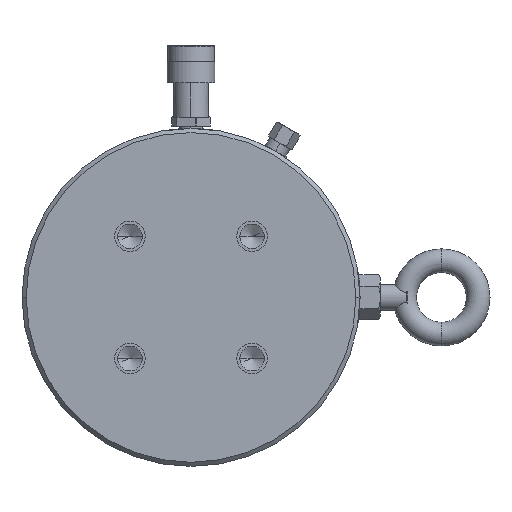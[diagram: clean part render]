
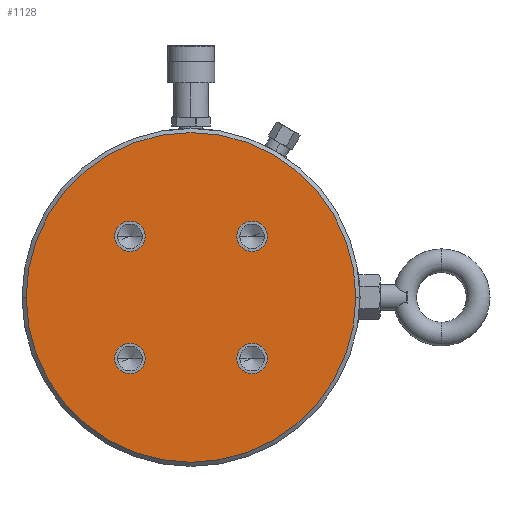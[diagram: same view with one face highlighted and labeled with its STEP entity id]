
A CAD part, front view. The second image highlights one B-rep face of the part: STEP entity #1128.
In plain terms, the highlighted planar face has unit normal (0, -1, 0).
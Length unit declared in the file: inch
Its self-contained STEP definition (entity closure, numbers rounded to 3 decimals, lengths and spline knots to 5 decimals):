
#1=CARTESIAN_POINT('',(-1.76777,0.,-1.76777));
#2=DIRECTION('',(0.,-1.,0.));
#3=DIRECTION('',(1.,0.,0.));
#4=AXIS2_PLACEMENT_3D('',#1,#2,#3);
#6=CARTESIAN_POINT('',(-1.76777,0.,-1.76777));
#7=DIRECTION('',(0.,-1.,0.));
#8=DIRECTION('',(-1.,0.,0.));
#9=AXIS2_PLACEMENT_3D('',#6,#7,#8);
#11=CARTESIAN_POINT('',(-1.76777,0.,1.76777));
#12=DIRECTION('',(0.,-1.,0.));
#13=DIRECTION('',(1.,0.,0.));
#14=AXIS2_PLACEMENT_3D('',#11,#12,#13);
#16=CARTESIAN_POINT('',(-1.76777,0.,1.76777));
#17=DIRECTION('',(0.,-1.,0.));
#18=DIRECTION('',(-1.,0.,0.));
#19=AXIS2_PLACEMENT_3D('',#16,#17,#18);
#21=CARTESIAN_POINT('',(1.76777,0.,1.76777));
#22=DIRECTION('',(0.,-1.,0.));
#23=DIRECTION('',(1.,0.,0.));
#24=AXIS2_PLACEMENT_3D('',#21,#22,#23);
#26=CARTESIAN_POINT('',(1.76777,0.,1.76777));
#27=DIRECTION('',(0.,-1.,0.));
#28=DIRECTION('',(-1.,0.,0.));
#29=AXIS2_PLACEMENT_3D('',#26,#27,#28);
#31=CARTESIAN_POINT('',(1.76777,0.,-1.76777));
#32=DIRECTION('',(0.,-1.,0.));
#33=DIRECTION('',(1.,0.,0.));
#34=AXIS2_PLACEMENT_3D('',#31,#32,#33);
#36=CARTESIAN_POINT('',(1.76777,0.,-1.76777));
#37=DIRECTION('',(0.,-1.,0.));
#38=DIRECTION('',(-1.,0.,0.));
#39=AXIS2_PLACEMENT_3D('',#36,#37,#38);
#243=CARTESIAN_POINT('',(0.,0.,0.));
#244=DIRECTION('',(0.,1.,0.));
#245=DIRECTION('',(-1.,0.,0.));
#246=AXIS2_PLACEMENT_3D('',#243,#244,#245);
#253=CARTESIAN_POINT('',(0.,0.,0.));
#254=DIRECTION('',(0.,1.,0.));
#255=DIRECTION('',(1.,0.,0.));
#256=AXIS2_PLACEMENT_3D('',#253,#254,#255);
#911=CARTESIAN_POINT('',(-4.76969,0.,0.));
#912=CARTESIAN_POINT('',(4.76969,0.,0.));
#913=VERTEX_POINT('',#911);
#914=VERTEX_POINT('',#912);
#1021=CARTESIAN_POINT('',(-1.32682,0.,-1.76777));
#1022=CARTESIAN_POINT('',(-2.20871,0.,-1.76777));
#1023=VERTEX_POINT('',#1021);
#1024=VERTEX_POINT('',#1022);
#1051=CARTESIAN_POINT('',(-1.32682,0.,1.76777));
#1052=CARTESIAN_POINT('',(-2.20871,0.,1.76777));
#1053=VERTEX_POINT('',#1051);
#1054=VERTEX_POINT('',#1052);
#1063=CARTESIAN_POINT('',(2.20871,0.,1.76777));
#1064=CARTESIAN_POINT('',(1.32682,0.,1.76777));
#1065=VERTEX_POINT('',#1063);
#1066=VERTEX_POINT('',#1064);
#1075=CARTESIAN_POINT('',(2.20871,0.,-1.76777));
#1076=CARTESIAN_POINT('',(1.32682,0.,-1.76777));
#1077=VERTEX_POINT('',#1075);
#1078=VERTEX_POINT('',#1076);
#1093=CARTESIAN_POINT('',(0.,0.,0.));
#1094=DIRECTION('',(0.,1.,0.));
#1095=DIRECTION('',(1.,0.,0.));
#1096=AXIS2_PLACEMENT_3D('',#1093,#1094,#1095);
#1097=PLANE('',#1096);
#1099=ORIENTED_EDGE('',*,*,#1098,.T.);
#1101=ORIENTED_EDGE('',*,*,#1100,.T.);
#1102=EDGE_LOOP('',(#1099,#1101));
#1103=FACE_OUTER_BOUND('',#1102,.F.);
#1105=ORIENTED_EDGE('',*,*,#1104,.T.);
#1107=ORIENTED_EDGE('',*,*,#1106,.T.);
#1108=EDGE_LOOP('',(#1105,#1107));
#1109=FACE_BOUND('',#1108,.F.);
#1111=ORIENTED_EDGE('',*,*,#1110,.T.);
#1113=ORIENTED_EDGE('',*,*,#1112,.T.);
#1114=EDGE_LOOP('',(#1111,#1113));
#1115=FACE_BOUND('',#1114,.F.);
#1117=ORIENTED_EDGE('',*,*,#1116,.T.);
#1119=ORIENTED_EDGE('',*,*,#1118,.T.);
#1120=EDGE_LOOP('',(#1117,#1119));
#1121=FACE_BOUND('',#1120,.F.);
#1123=ORIENTED_EDGE('',*,*,#1122,.T.);
#1125=ORIENTED_EDGE('',*,*,#1124,.T.);
#1126=EDGE_LOOP('',(#1123,#1125));
#1127=FACE_BOUND('',#1126,.F.);
#1128=ADVANCED_FACE('',(#1103,#1109,#1115,#1121,#1127),#1097,.F.);
#5=CIRCLE('',#4,0.44094);
#10=CIRCLE('',#9,0.44094);
#15=CIRCLE('',#14,0.44094);
#20=CIRCLE('',#19,0.44094);
#25=CIRCLE('',#24,0.44094);
#30=CIRCLE('',#29,0.44094);
#35=CIRCLE('',#34,0.44094);
#40=CIRCLE('',#39,0.44094);
#247=CIRCLE('',#246,4.76969);
#257=CIRCLE('',#256,4.76969);
#1098=EDGE_CURVE('',#914,#913,#257,.T.);
#1100=EDGE_CURVE('',#913,#914,#247,.T.);
#1104=EDGE_CURVE('',#1023,#1024,#5,.T.);
#1106=EDGE_CURVE('',#1024,#1023,#10,.T.);
#1110=EDGE_CURVE('',#1053,#1054,#15,.T.);
#1112=EDGE_CURVE('',#1054,#1053,#20,.T.);
#1116=EDGE_CURVE('',#1065,#1066,#25,.T.);
#1118=EDGE_CURVE('',#1066,#1065,#30,.T.);
#1122=EDGE_CURVE('',#1077,#1078,#35,.T.);
#1124=EDGE_CURVE('',#1078,#1077,#40,.T.);
